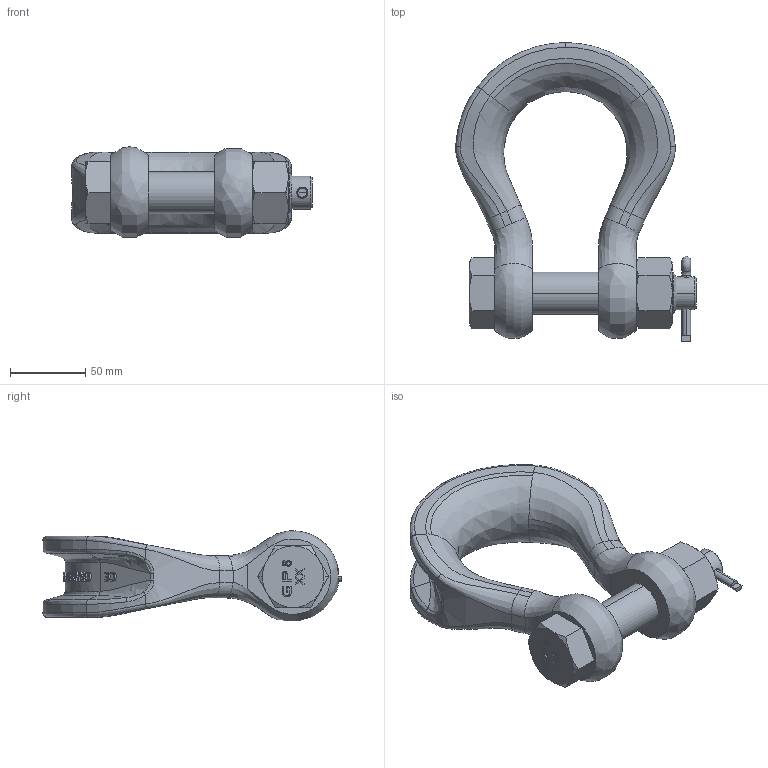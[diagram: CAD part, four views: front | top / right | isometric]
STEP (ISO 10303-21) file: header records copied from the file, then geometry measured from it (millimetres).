
FILE_DESCRIPTION(('STEP AP203'),'1');
FILE_NAME('slgpf0012.stp','2022-08-11T13:58:13',('TraceParts'),('TraceParts S.A.'),'Spatial InterOp 3D',' ',' ');
FILE_SCHEMA(('CONFIG_CONTROL_DESIGN'));
Length unit declared in the file: millimetre
Products named in the file (1): 1
Bounding box: 159.97 x 198.5 x 60.07 mm (x, y, z)
Volume: 512782.9 mm3; surface area: 89488.5 mm2
Topology: 4 solids, 4 shells, 625 faces, 1623 edges, 1048 vertices
Faces by surface type: plane 281, bspline 226, cylinder 81, cone 37
Entity records: 52554 total; most frequent: CARTESIAN_POINT 39228, ORIENTED_EDGE 3246, DIRECTION 1865, EDGE_CURVE 1623, VERTEX_POINT 1048, LINE 791, VECTOR 791, B_SPLINE_CURVE_WITH_KNOTS 677
